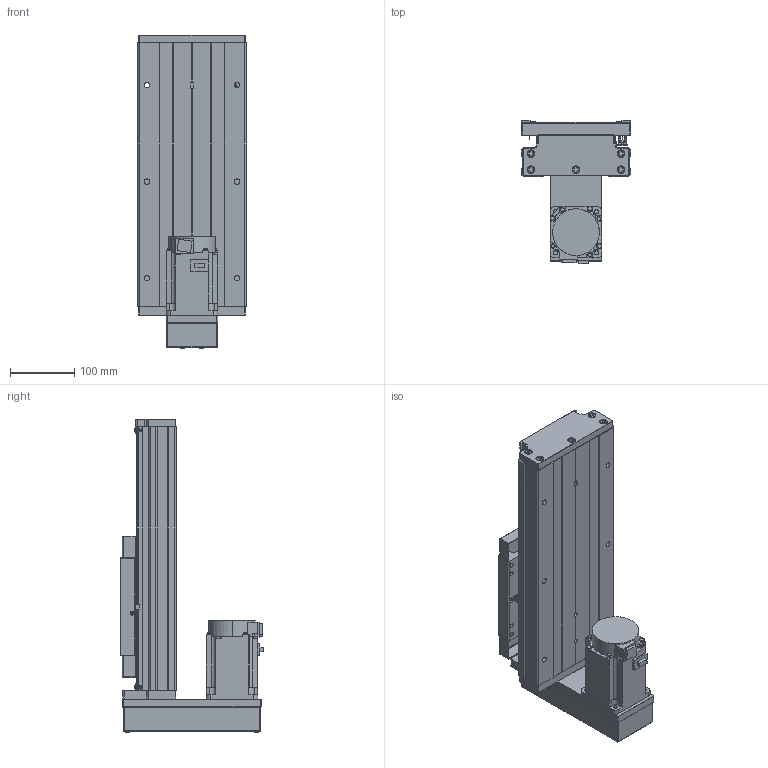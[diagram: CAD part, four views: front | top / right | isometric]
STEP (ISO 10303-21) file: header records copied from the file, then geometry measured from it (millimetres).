
FILE_DESCRIPTION (( 'STEP AP203' ), '1' );
FILE_NAME ('GTH17-150-BM-M75-C4.step', '2023-06-30T12:38:40', ( '微软用户' ), ( '微软中国' ), 'SwSTEP 2.0', 'SolidWorks 2020', '' );
FILE_SCHEMA (( 'CONFIG_CONTROL_DESIGN' ));
Length unit declared in the file: millimetre
Products named in the file (19): す晦芛蹟隊 M3℅5; GTH17-001_150; CTHA60-016; HG-KN73J-S100; GTH17-002_GTH17-002; GBT 70.1-M3℅5; GBT 70.2-M4¡Á45_M4¡Á35; GTH17-004; GBT77-2000 M3×3; GTH17-015-2_CTHA86-015-2; GTH17-005; GBT 70.1-M6¡Á20_M6¡Á20; GTH17-033; GB1155-6X6; GTH17-031; GTH17-150-BM-M75-C4; CTHA60-017; GBT 70.2-M3¡Á5_M3¡Á6; EE_SX911P_R
Assembly tree (58 placements, depth 2):
  GTH17-150-BM-M75-C4
    GTH17-001_150
    GTH17-002_GTH17-002
    GTH17-004
    GTH17-005
    GB1155-6X6  x2
    CTHA60-017  x3
    EE_SX911P_R  x3
    CTHA60-016  x2
    GBT 70.1-M3℅5  x6
    GBT77-2000 M3×3  x6
    GBT 70.1-M6¡Á20_M6¡Á20  x10
    GTH17-031
    GBT 70.2-M3¡Á5_M3¡Á6  x8
    す晦芛蹟隊 M3℅5  x6
    HG-KN73J-S100
    GBT 70.2-M4¡Á45_M4¡Á35  x4
    GTH17-015-2_CTHA86-015-2
    GTH17-033
Bounding box: 171 x 222.3 x 488.2 mm (x, y, z)
Volume: 4645632.4 mm3; surface area: 771679.4 mm2
Topology: 61 solids, 61 shells, 2419 faces, 5773 edges, 3571 vertices
Faces by surface type: plane 1304, cylinder 642, cone 297, torus 124, sphere 32, bspline 20
Entity records: 43814 total; most frequent: CARTESIAN_POINT 10216, DIRECTION 6301, ORIENTED_EDGE 6258, EDGE_CURVE 3129, AXIS2_PLACEMENT_3D 2134, VECTOR 2033, LINE 2033, VERTEX_POINT 1983
